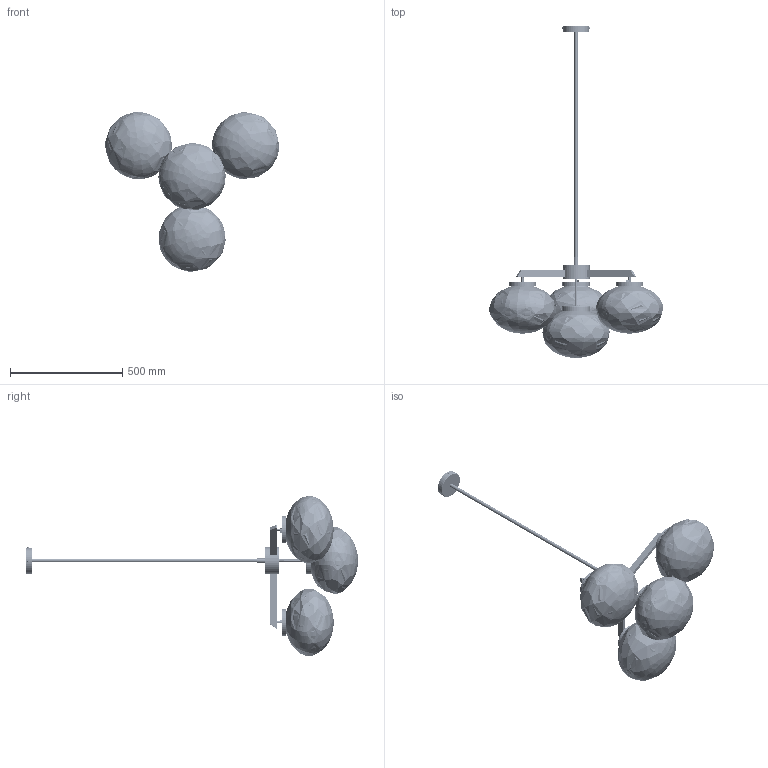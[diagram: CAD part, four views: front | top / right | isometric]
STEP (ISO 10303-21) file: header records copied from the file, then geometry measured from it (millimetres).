
FILE_DESCRIPTION (( 'STEP AP203' ), '1' );
FILE_NAME ('CTO-01-052-0001 (Cloudesley Small)_A.STEP', '2020-04-14T15:34:54', ( '' ), ( '' ), 'SwSTEP 2.0', 'SolidWorks 2020', '' );
FILE_SCHEMA (( 'CONFIG_CONTROL_DESIGN' ));
Length unit declared in the file: millimetre
Products named in the file (41): Shade assembly_B; Drop Rod Assembly; PCTO 02 0749; PCTO 09 0094_Cloudesley Wago connectors; PCTO 02 0048; Cloudesley_shade_suspension_tubes_all_GNH_Small_middle; PCTO 05 0017; PCTO 02 0076; Cloudesley_shade_suspension_tubes_all_GNH_Small_Outter; PCTO 02 0585; PCTO 02 0747; PCTO 09 0131; PCTO 09 0132; PCTO 02 0102; PCTO 02 0746; PCTO 02 0713; PCTO 05 0132; M4 x 8 CS SL; PCTO 02 0744; PCTO 01 0029; PCTO 01 0002; PCTO 02 0201; PCTO 01 0118; PCTO 01 0007; PCTO 05 0129_M4X40mm; PCTO 05 0130; PCTO 02 0743; PCTO 02 0712; PCTO 05 0133; PCTO 02 0503; Cloudesley - Centre spinning V2_Small PCTO 02 0740; CTO-01-052-0001 (Cloudesley Small)_A; E27 Master LED bulb; PCTO 05 0131; PCTO 05 0056; PCTO 05 0079; PCTO 03 0050; PCTO 02 0078
Assembly tree (110 placements, depth 3):
  CTO-01-052-0001 (Cloudesley Small)_A
    PCTO 02 0747  x3
    PCTO 02 0712
    Cloudesley_shade_suspension_tubes_all_GNH_Small_middle
    Cloudesley_shade_suspension_tubes_all_GNH_Small_Outter  x3
    Shade assembly_B
      PCTO 02 0744
      PCTO 03 0050
      PCTO 02 0746
      PCTO 01 0002
      E27 Master LED bulb
      PCTO 05 0056
      PCTO 09 0132
      PCTO 09 0131
      PCTO 05 0132  x3
    Shade assembly_B
      PCTO 02 0744
      PCTO 03 0050
      PCTO 02 0746
      PCTO 01 0002
      E27 Master LED bulb
      PCTO 05 0056
      PCTO 09 0132
      PCTO 09 0131
      PCTO 05 0132  x3
    Shade assembly_B
      PCTO 02 0744
      PCTO 03 0050
      PCTO 02 0746
      PCTO 01 0002
      E27 Master LED bulb
      PCTO 05 0056
      PCTO 09 0132
      PCTO 09 0131
      PCTO 05 0132  x3
    Shade assembly_B
      PCTO 02 0744
      PCTO 03 0050
      PCTO 02 0746
      PCTO 01 0002
      E27 Master LED bulb
      PCTO 05 0056
      PCTO 09 0132
      PCTO 09 0131
      PCTO 05 0132  x3
    PCTO 02 0749
    PCTO 02 0503  x4
    PCTO 02 0585
    Drop Rod Assembly
      PCTO 02 0201
      PCTO 02 0076
      PCTO 02 0102
      PCTO 05 0017  x4
      PCTO 05 0133
      PCTO 02 0078
      PCTO 02 0048
      PCTO 01 0029  x2
      PCTO 05 0079
    PCTO 02 0713
    PCTO 01 0118  x2
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Bounding box: 775.28 x 1477.84 x 711.63 mm (x, y, z)
Volume: 4299541.4 mm3; surface area: 2701202.8 mm2
Topology: 119 solids, 119 shells, 6123 faces, 16365 edges, 10500 vertices
Faces by surface type: plane 3179, cylinder 2131, cone 442, bspline 251, torus 120
Entity records: 95034 total; most frequent: CARTESIAN_POINT 40736, ORIENTED_EDGE 10638, DIRECTION 9580, EDGE_CURVE 5319, AXIS2_PLACEMENT_3D 3437, VERTEX_POINT 3425, VECTOR 2706, LINE 2706
